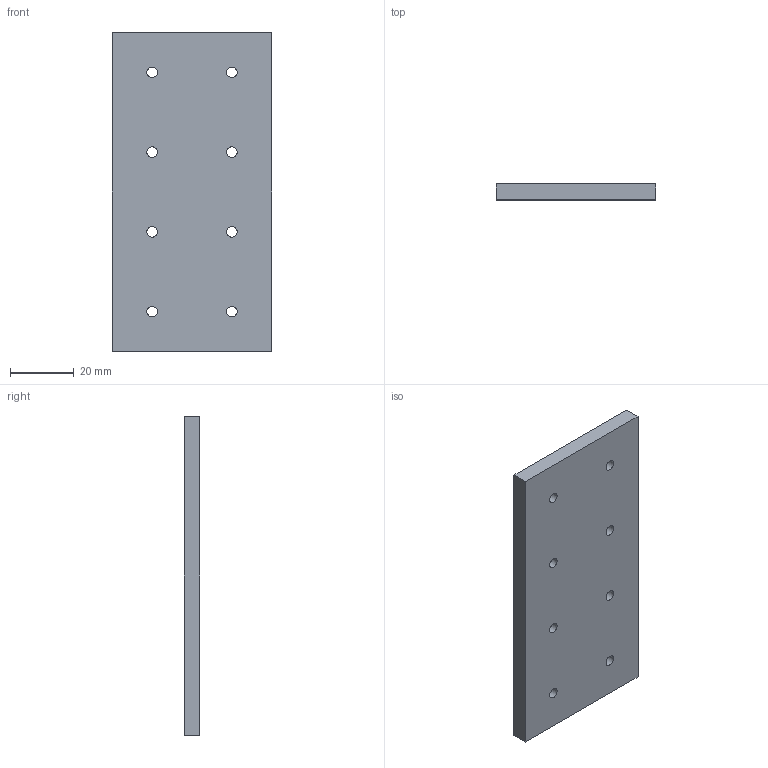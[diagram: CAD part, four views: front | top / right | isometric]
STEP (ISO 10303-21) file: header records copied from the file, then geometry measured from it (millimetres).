
FILE_DESCRIPTION(/* description */ (''),/* implementation_level */ '2;1');
FILE_NAME(/* name */ 'connection-2x4-thread.stp',/* time_stamp */ '2026-04-28T17:51:43+08:00',/* author */ ('32769'),/* organization */ (''),/* preprocessor_version */ 'ST-DEVELOPER v20',/* originating_system */ 'Autodesk Inventor 2025',/* authorisation */ '');
FILE_SCHEMA (('AUTOMOTIVE_DESIGN { 1 0 10303 214 3 1 1 }'));
Length unit declared in the file: millimetre
Products named in the file (1): connection-2x4-thread
Bounding box: 50 x 5 x 100 mm (x, y, z)
Volume: 24657.9 mm3; surface area: 11777.8 mm2
Topology: 1 solids, 1 shells, 14 faces, 36 edges, 24 vertices
Faces by surface type: cylinder 8, plane 6
Full cylindrical faces by diameter (mm): 3.3 x8
Entity records: 511 total; most frequent: DIRECTION 82, CARTESIAN_POINT 75, ORIENTED_EDGE 72, EDGE_CURVE 36, AXIS2_PLACEMENT_3D 31, EDGE_LOOP 30, VERTEX_POINT 24, LINE 20
